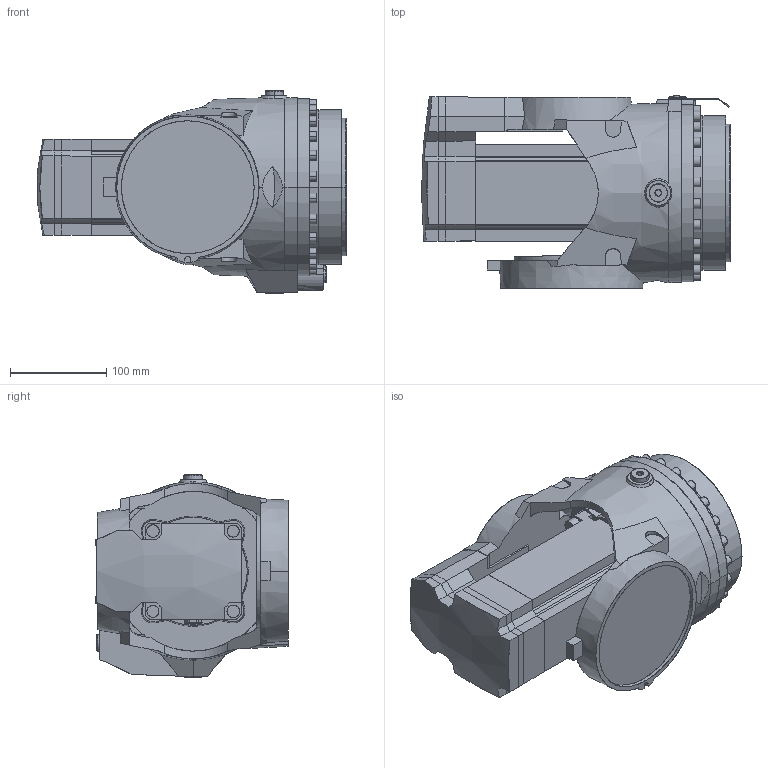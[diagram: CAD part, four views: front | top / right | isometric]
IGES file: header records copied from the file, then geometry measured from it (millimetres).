
Start section: SolidWorks IGES file using analytic representation for surfaces
Global section: file name: C:\DATA\SAP_DOC\LW\IRB 6720\IRB6720-LID-MH_215kg-265_OC_01_SW_J\export\IRB6720-LID-MH_215kg-265_OC_01_IGES_J\IRB6720-LID_215kg-265_OC_00_LINK05_CAD.igs; native system: SolidWorks 2024; preprocessor: SolidWorks 2024; author: SEJOVAS3; date: 260526.094342; units: millimetre
Bounding box: 321.19 x 200.3 x 210 mm (x, y, z)
Surface area: 372789.3 mm2 (no closed solid volume)
Topology: 0 solids, 0 shells, 635 faces, 10009 edges, 10009 vertices
Faces by surface type: bspline 399, revolution 236
